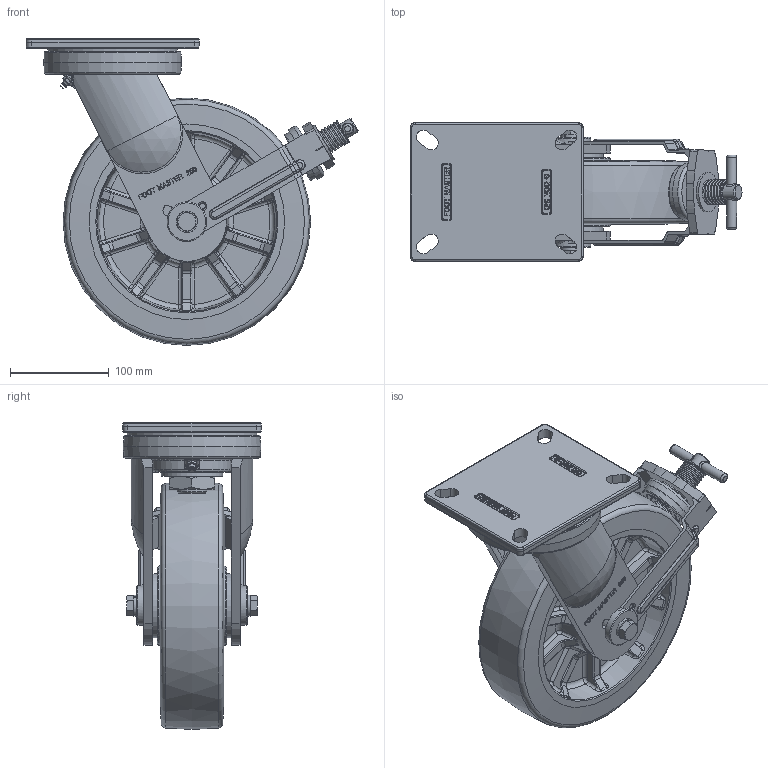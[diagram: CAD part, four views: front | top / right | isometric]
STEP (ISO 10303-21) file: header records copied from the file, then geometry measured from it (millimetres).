
FILE_DESCRIPTION(/* description */ (''),/* implementation_level */ '2;1');
FILE_NAME(/* name */ 'Y:\1.기술연구소\2.연구개발 진행중\133.고하중캐스터 브레이크 타입 변경건_2025.11.03\1.도면\4.홈페이지용 도면\01. 3D\GXT-250 SERIES\GXT-200-STEP\GXT-250-BSF-HUD.stp',/* time_stamp */ '2026-07-21T20:10:47+09:00',/* author */ ('장용하'),/* organization */ (''),/* preprocessor_version */ 'ST-DEVELOPER v18.1',/* originating_system */ 'Autodesk Inventor 2021',/* authorisation */ '');
FILE_SCHEMA (('CONFIG_CONTROL_DESIGN'));
Products named in the file (1): GXT-250-BSF-HUD
Bounding box: 335.39 x 140 x 310 mm (x, y, z)
Volume: 3380049.2 mm3; surface area: 384823.9 mm2
Topology: 1 solids, 1 shells, 2512 faces, 6526 edges, 4140 vertices
Faces by surface type: plane 958, bspline 923, cylinder 405, torus 173, cone 49, sphere 4
Full cylindrical faces by diameter (mm): 10 x2, 12 x2, 13 x2, 16 x1, 20 x1, 30 x1, 31.606 x1, 37.448 x2, 40 x3, 54 x2, 58 x1, 62.5 x1, 65 x2, 131.086 x1
Entity records: 90636 total; most frequent: CARTESIAN_POINT 34723, ORIENTED_EDGE 13056, DIRECTION 9199, EDGE_CURVE 6528, VERTEX_POINT 4142, LINE 3125, VECTOR 3125, AXIS2_PLACEMENT_3D 3037
